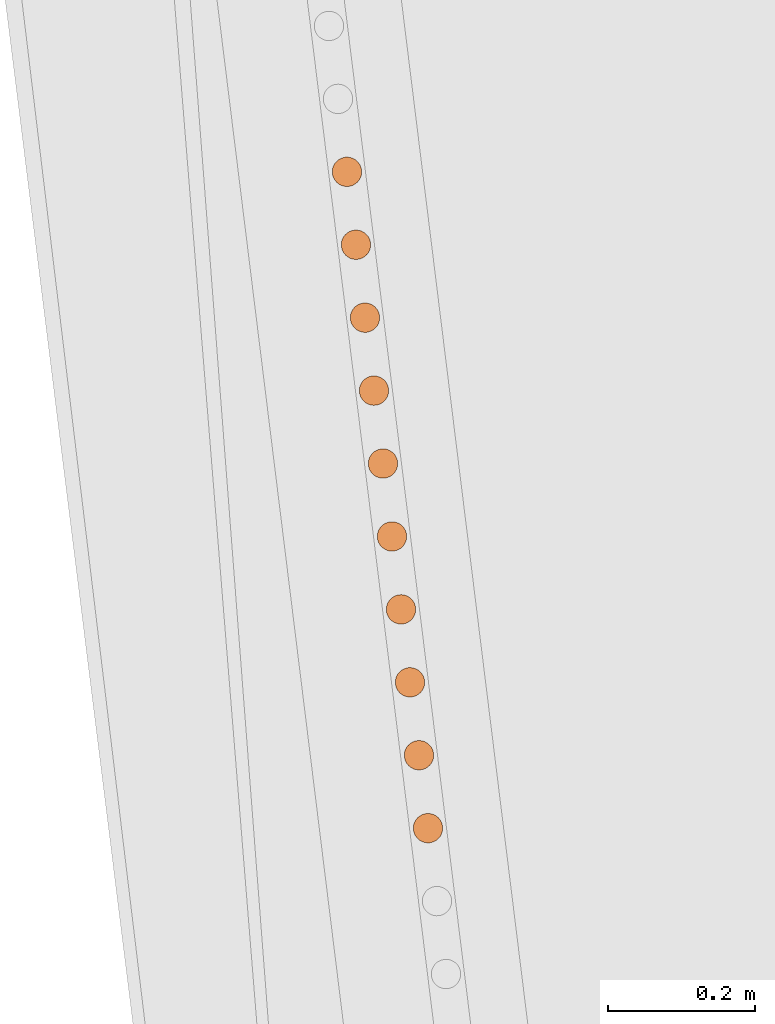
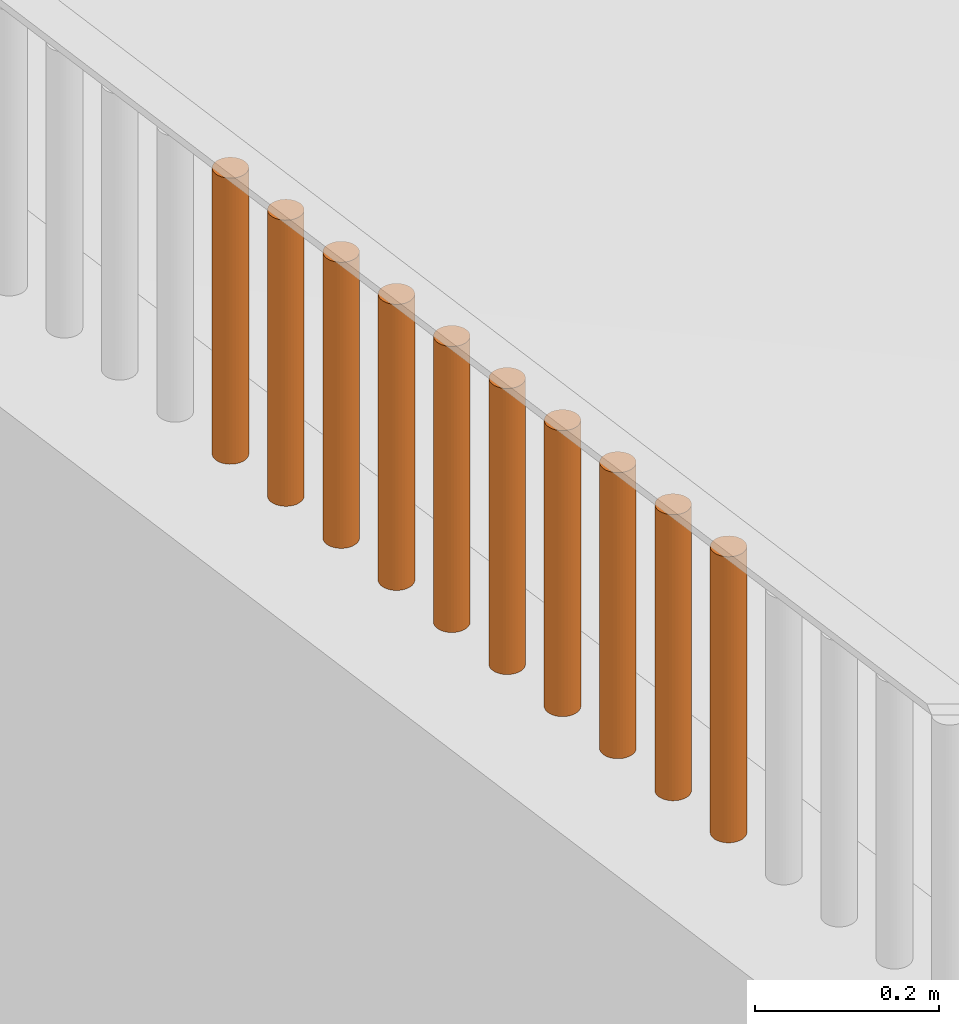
# One storey, part 59 of 1809: 10 proxies, 1 element without a shape of its own.
"""IFC2X3 building model written with IfcOpenShell, lengths in millimetres."""

from ifc_helpers import new_model, entity, si_unit, converted_unit, derived_unit, money_unit, direction, frame, origin_with_axes, place, context, subcontext, project, spatial, faceted_brep, source, transform, mapped, material, type_object, element, aggregate, save


model = new_model("IFC2X3")

# Units and contexts
model_context = context("Model", 3, precision=0.01, world=origin_with_axes(), true_north=direction((0.0, 1.0)))
body_context = subcontext(model_context, "Body", "Model", "MODEL_VIEW")
ifc_project = project(units=[si_unit("LENGTHUNIT", "METRE", prefix="MILLI"), si_unit("AREAUNIT", "SQUARE_METRE"), si_unit("VOLUMEUNIT", "CUBIC_METRE"), converted_unit("PLANEANGLEUNIT", "DEGREE", entity("IfcPlaneAngleMeasure", 0.0174532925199), si_unit("PLANEANGLEUNIT", "RADIAN"), dimensions=[0, 0, 0, 0, 0, 0, 0]), si_unit("SOLIDANGLEUNIT", "STERADIAN"), money_unit("EUR"), converted_unit("TIMEUNIT", "Year", entity("IfcTimeMeasure", 31556926.0), si_unit("TIMEUNIT", "SECOND"), dimensions=[0, 0, 1, 0, 0, 0, 0]), si_unit("MASSUNIT", "GRAM", prefix="KILO"), si_unit("THERMODYNAMICTEMPERATUREUNIT", "DEGREE_CELSIUS"), si_unit("LUMINOUSINTENSITYUNIT", "LUMEN"), si_unit("ENERGYUNIT", "JOULE", prefix="MEGA"), derived_unit("THERMALCONDUCTANCEUNIT", [(si_unit("POWERUNIT", "WATT"), 1), (si_unit("LENGTHUNIT", "METRE"), -1), (si_unit("THERMODYNAMICTEMPERATUREUNIT", "KELVIN"), -1)]), derived_unit("SPECIFICHEATCAPACITYUNIT", [(si_unit("ENERGYUNIT", "JOULE"), 1), (si_unit("MASSUNIT", "GRAM", prefix="KILO"), -1), (si_unit("THERMODYNAMICTEMPERATUREUNIT", "KELVIN"), -1)]), derived_unit("MASSDENSITYUNIT", [(si_unit("MASSUNIT", "GRAM", prefix="KILO"), 1), (si_unit("VOLUMEUNIT", "CUBIC_METRE"), -1)])], contexts=[model_context])

# Site, building, storey
site_placement = place(None, origin_with_axes())
site = spatial("IfcSite", under=ifc_project, at=site_placement, Name="Politse- ja Piirivalveameti ning Päästeameti ühishoone", CompositionType="ELEMENT")
building_placement = place(site_placement, origin_with_axes())
building = spatial("IfcBuilding", under=site, at=building_placement, Name="Politse- ja Piirivalveameti ning Päästeameti ühishoone", CompositionType="ELEMENT")
storey_placement = place(building_placement, origin_with_axes())
storey = spatial("IfcBuildingStorey", under=building, at=storey_placement, Name="Esimene korrus", CompositionType="ELEMENT", Elevation=0.0)

# Proxies
building_element_proxy_type_1 = type_object("IfcBuildingElementProxyType", Name="Railing Type", PredefinedType="NOTDEFINED")
proxy_1_placement = place(storey_placement, frame((-18956.5522504, -53688.4757966, 2100.0), z_axis=(0.0, 0.0, 1.0), x_axis=(1.0, 0.0, 0.0)))
proxy_1 = element("IfcBuildingElementProxy", 1, at=proxy_1_placement, inside=storey, type_object=building_element_proxy_type_1, Name="PIIRDEAED")
ifc_material = material(Name="ET-06_Teras - Konstruktsioon")
building_element_proxy_type_2 = type_object("IfcBuildingElementProxyType", Name="IfcBuildingElementProxy", PredefinedType="NOTDEFINED")
shared_shape_1 = source(origin_with_axes(), body_context, "Body", "Brep", [
    faceted_brep([(0.0, -20.0, 0.0), (3.47296355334, -19.6961550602, 0.0), (3.47296355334, -19.6961550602, 380.000012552), (0.0, -20.0, 380.000012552), (-3.47296355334, -19.6961550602, 0.0), (-6.84040286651, -18.7938524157, 0.0), (-10.0, -17.3205080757, 0.0), (-12.8557521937, -15.3208888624, 0.0), (-15.3208888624, -12.8557521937, 0.0), (-17.3205080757, -10.0, 0.0), (-18.7938524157, -6.84040286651, 0.0), (-19.6961550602, -3.47296355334, 0.0), (-20.0, 0.0, 0.0), (-19.6961550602, 3.47296355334, 0.0), (-18.7938524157, 6.84040286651, 0.0), (-17.3205080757, 10.0, 0.0), (-15.3208888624, 12.8557521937, 0.0), (-12.8557521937, 15.3208888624, 0.0), (-10.0, 17.3205080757, 0.0), (-6.84040286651, 18.7938524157, 0.0), (-3.47296355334, 19.6961550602, 0.0), (0.0, 20.0, 0.0), (3.47296355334, 19.6961550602, 0.0), (6.84040286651, 18.7938524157, 0.0), (10.0, 17.3205080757, 0.0), (12.8557521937, 15.3208888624, 0.0), (15.3208888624, 12.8557521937, 0.0), (17.3205080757, 10.0, 0.0), (18.7938524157, 6.84040286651, 0.0), (19.6961550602, 3.47296355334, 0.0), (20.0, 0.0, 0.0), (19.6961550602, -3.47296355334, 0.0), (18.7938524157, -6.84040286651, 0.0), (17.3205080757, -10.0, 0.0), (15.3208888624, -12.8557521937, 0.0), (12.8557521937, -15.3208888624, 0.0), (10.0, -17.3205080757, 0.0), (6.84040286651, -18.7938524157, 0.0), (6.84040286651, -18.7938524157, 380.000012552), (10.0, -17.3205080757, 380.000012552), (12.8557521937, -15.3208888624, 380.000012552), (15.3208888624, -12.8557521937, 380.000012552), (17.3205080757, -10.0, 380.000012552), (18.7938524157, -6.84040286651, 380.000012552), (19.6961550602, -3.47296355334, 380.000012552), (20.0, 0.0, 380.000012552), (19.6961550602, 3.47296355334, 380.000012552), (18.7938524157, 6.84040286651, 380.000012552), (17.3205080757, 10.0, 380.000012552), (15.3208888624, 12.8557521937, 380.000012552), (12.8557521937, 15.3208888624, 380.000012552), (10.0, 17.3205080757, 380.000012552), (6.84040286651, 18.7938524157, 380.000012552), (3.47296355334, 19.6961550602, 380.000012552), (0.0, 20.0, 380.000012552), (-3.47296355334, 19.6961550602, 380.000012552), (-6.84040286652, 18.7938524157, 380.000012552), (-10.0, 17.3205080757, 380.000012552), (-12.8557521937, 15.3208888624, 380.000012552), (-15.3208888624, 12.8557521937, 380.000012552), (-17.3205080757, 10.0, 380.000012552), (-18.7938524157, 6.84040286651, 380.000012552), (-19.6961550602, 3.47296355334, 380.000012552), (-20.0, 0.0, 380.000012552), (-19.6961550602, -3.47296355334, 380.000012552), (-18.7938524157, -6.84040286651, 380.000012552), (-17.3205080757, -10.0, 380.000012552), (-15.3208888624, -12.8557521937, 380.000012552), (-12.8557521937, -15.3208888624, 380.000012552), (-10.0, -17.3205080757, 380.000012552), (-6.84040286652, -18.7938524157, 380.000012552), (-3.47296355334, -19.6961550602, 380.000012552)], [[[0, 1, 2, 3]], [[0, 4, 5, 6, 7, 8, 9, 10, 11, 12, 13, 14, 15, 16, 17, 18, 19, 20, 21, 22, 23, 24, 25, 26, 27, 28, 29, 30, 31, 32, 33, 34, 35, 36, 37, 1]], [[1, 37, 38, 2]], [[3, 2, 38, 39, 40, 41, 42, 43, 44, 45, 46, 47, 48, 49, 50, 51, 52, 53, 54, 55, 56, 57, 58, 59, 60, 61, 62, 63, 64, 65, 66, 67, 68, 69, 70, 71]], [[4, 0, 3, 71]], [[5, 4, 71, 70]], [[6, 5, 70, 69]], [[7, 6, 69, 68]], [[8, 7, 68, 67]], [[9, 8, 67, 66]], [[10, 9, 66, 65]], [[11, 10, 65, 64]], [[12, 11, 64, 63]], [[13, 12, 63, 62]], [[14, 13, 62, 61]], [[15, 14, 61, 60]], [[16, 15, 60, 59]], [[17, 16, 59, 58]], [[18, 17, 58, 57]], [[19, 18, 57, 56]], [[20, 19, 56, 55]], [[21, 20, 55, 54]], [[22, 21, 54, 53]], [[23, 22, 53, 52]], [[24, 23, 52, 51]], [[25, 24, 51, 50]], [[26, 25, 50, 49]], [[27, 26, 49, 48]], [[28, 27, 48, 47]], [[29, 28, 47, 46]], [[30, 29, 46, 45]], [[31, 30, 45, 44]], [[32, 31, 44, 43]], [[33, 32, 43, 42]], [[34, 33, 42, 41]], [[35, 34, 41, 40]], [[36, 35, 40, 39]], [[37, 36, 39, 38]]]),
])
proxy_2_placement = place(proxy_1_placement, frame((-582.931039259, 3888.59590215, -1.25517001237e-05), z_axis=(0.0, 0.0, 1.0), x_axis=(1.0, 0.0, 0.0)))
proxy_2 = element("IfcBuildingElementProxy", 2, at=proxy_2_placement, type_object=building_element_proxy_type_2, material=ifc_material, Name="BALUSTER - 001", context=body_context, shape_type="MappedRepresentation", body=[
    mapped(shared_shape_1, transform((0.0, 0.0, 0.0), x_axis=(0.992468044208, 0.122503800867, 0.0), y_axis=(-0.122503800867, 0.992468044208, 0.0), z_axis=(0.0, 0.0, 1.0))),
])
proxy_3_placement = place(proxy_1_placement, frame((-656.417268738, 4483.9466907, -1.25517001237e-05), z_axis=(0.0, 0.0, 1.0), x_axis=(1.0, 0.0, 0.0)))
proxy_3 = element("IfcBuildingElementProxy", 3, at=proxy_3_placement, type_object=building_element_proxy_type_2, material=ifc_material, Name="BALUSTER - 001", context=body_context, shape_type="MappedRepresentation", body=[
    mapped(shared_shape_1, transform((0.0, 0.0, 0.0), x_axis=(0.992468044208, 0.122503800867, 0.0), y_axis=(-0.122503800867, 0.992468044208, 0.0), z_axis=(0.0, 0.0, 1.0))),
])
shared_shape_2 = source(origin_with_axes(), body_context, "Body", "Brep", [
    faceted_brep([(0.0, -20.0, 0.0), (3.47296355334, -19.6961550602, 0.0), (3.47296355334, -19.6961550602, 380.000012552), (0.0, -20.0, 380.000012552), (-3.47296355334, -19.6961550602, 0.0), (-6.84040286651, -18.7938524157, 0.0), (-10.0, -17.3205080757, 0.0), (-12.8557521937, -15.3208888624, 0.0), (-15.3208888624, -12.8557521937, 0.0), (-17.3205080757, -10.0, 0.0), (-18.7938524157, -6.84040286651, 0.0), (-19.6961550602, -3.47296355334, 0.0), (-20.0, 0.0, 0.0), (-19.6961550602, 3.47296355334, 0.0), (-18.7938524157, 6.84040286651, 0.0), (-17.3205080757, 10.0, 0.0), (-15.3208888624, 12.8557521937, 0.0), (-12.8557521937, 15.3208888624, 0.0), (-10.0, 17.3205080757, 0.0), (-6.84040286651, 18.7938524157, 0.0), (-3.47296355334, 19.6961550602, 0.0), (0.0, 20.0, 0.0), (3.47296355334, 19.6961550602, 0.0), (6.84040286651, 18.7938524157, 0.0), (10.0, 17.3205080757, 0.0), (12.8557521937, 15.3208888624, 0.0), (15.3208888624, 12.8557521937, 0.0), (17.3205080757, 10.0, 0.0), (18.7938524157, 6.84040286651, 0.0), (19.6961550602, 3.47296355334, 0.0), (20.0, 0.0, 0.0), (19.6961550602, -3.47296355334, 0.0), (18.7938524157, -6.84040286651, 0.0), (17.3205080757, -10.0, 0.0), (15.3208888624, -12.8557521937, 0.0), (12.8557521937, -15.3208888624, 0.0), (10.0, -17.3205080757, 0.0), (6.84040286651, -18.7938524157, 0.0), (6.84040286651, -18.7938524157, 380.000012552), (10.0, -17.3205080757, 380.000012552), (12.8557521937, -15.3208888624, 380.000012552), (15.3208888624, -12.8557521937, 380.000012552), (17.3205080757, -10.0, 380.000012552), (18.7938524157, -6.84040286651, 380.000012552), (19.6961550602, -3.47296355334, 380.000012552), (20.0, 0.0, 380.000012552), (19.6961550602, 3.47296355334, 380.000012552), (18.7938524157, 6.84040286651, 380.000012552), (17.3205080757, 10.0, 380.000012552), (15.3208888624, 12.8557521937, 380.000012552), (12.8557521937, 15.3208888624, 380.000012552), (10.0, 17.3205080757, 380.000012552), (6.84040286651, 18.7938524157, 380.000012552), (3.47296355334, 19.6961550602, 380.000012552), (0.0, 20.0, 380.000012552), (-3.47296355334, 19.6961550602, 380.000012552), (-6.84040286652, 18.7938524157, 380.000012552), (-10.0, 17.3205080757, 380.000012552), (-12.8557521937, 15.3208888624, 380.000012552), (-15.3208888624, 12.8557521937, 380.000012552), (-17.3205080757, 10.0, 380.000012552), (-18.7938524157, 6.84040286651, 380.000012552), (-19.6961550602, 3.47296355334, 380.000012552), (-20.0, 0.0, 380.000012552), (-19.6961550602, -3.47296355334, 380.000012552), (-18.7938524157, -6.84040286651, 380.000012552), (-17.3205080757, -10.0, 380.000012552), (-15.3208888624, -12.8557521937, 380.000012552), (-12.8557521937, -15.3208888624, 380.000012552), (-10.0, -17.3205080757, 380.000012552), (-6.84040286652, -18.7938524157, 380.000012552), (-3.47296355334, -19.6961550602, 380.000012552)], [[[0, 1, 2, 3]], [[0, 4, 5, 6, 7, 8, 9, 10, 11, 12, 13, 14, 15, 16, 17, 18, 19, 20, 21, 22, 23, 24, 25, 26, 27, 28, 29, 30, 31, 32, 33, 34, 35, 36, 37, 1]], [[1, 37, 38, 2]], [[3, 2, 38, 39, 40, 41, 42, 43, 44, 45, 46, 47, 48, 49, 50, 51, 52, 53, 54, 55, 56, 57, 58, 59, 60, 61, 62, 63, 64, 65, 66, 67, 68, 69, 70, 71]], [[4, 0, 3, 71]], [[5, 4, 71, 70]], [[6, 5, 70, 69]], [[7, 6, 69, 68]], [[8, 7, 68, 67]], [[9, 8, 67, 66]], [[10, 9, 66, 65]], [[11, 10, 65, 64]], [[12, 11, 64, 63]], [[13, 12, 63, 62]], [[14, 13, 62, 61]], [[15, 14, 61, 60]], [[16, 15, 60, 59]], [[17, 16, 59, 58]], [[18, 17, 58, 57]], [[19, 18, 57, 56]], [[20, 19, 56, 55]], [[21, 20, 55, 54]], [[22, 21, 54, 53]], [[23, 22, 53, 52]], [[24, 23, 52, 51]], [[25, 24, 51, 50]], [[26, 25, 50, 49]], [[27, 26, 49, 48]], [[28, 27, 48, 47]], [[29, 28, 47, 46]], [[30, 29, 46, 45]], [[31, 30, 45, 44]], [[32, 31, 44, 43]], [[33, 32, 43, 42]], [[34, 33, 42, 41]], [[35, 34, 41, 40]], [[36, 35, 40, 39]], [[37, 36, 39, 38]]]),
])
proxy_4_placement = place(proxy_1_placement, frame((-570.683334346, 3789.37077073, -1.25517001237e-05), z_axis=(0.0, 0.0, 1.0), x_axis=(1.0, 0.0, 0.0)))
proxy_4 = element("IfcBuildingElementProxy", 4, at=proxy_4_placement, type_object=building_element_proxy_type_2, material=ifc_material, Name="BALUSTER - 001", context=body_context, shape_type="MappedRepresentation", body=[
    mapped(shared_shape_2, transform((0.0, 0.0, 0.0), x_axis=(0.992468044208, 0.122503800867, 0.0), y_axis=(-0.122503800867, 0.992468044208, 0.0), z_axis=(0.0, 0.0, 1.0))),
])
proxy_5_placement = place(proxy_1_placement, frame((-619.674153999, 4186.27129643, -1.25517001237e-05), z_axis=(0.0, 0.0, 1.0), x_axis=(1.0, 0.0, 0.0)))
proxy_5 = element("IfcBuildingElementProxy", 5, at=proxy_5_placement, type_object=building_element_proxy_type_2, material=ifc_material, Name="BALUSTER - 001", context=body_context, shape_type="MappedRepresentation", body=[
    mapped(shared_shape_2, transform((0.0, 0.0, 0.0), x_axis=(0.992468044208, 0.122503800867, 0.0), y_axis=(-0.122503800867, 0.992468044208, 0.0), z_axis=(0.0, 0.0, 1.0))),
])
proxy_6_placement = place(proxy_1_placement, frame((-631.921858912, 4285.49642785, -1.25517001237e-05), z_axis=(0.0, 0.0, 1.0), x_axis=(1.0, 0.0, 0.0)))
proxy_6 = element("IfcBuildingElementProxy", 6, at=proxy_6_placement, type_object=building_element_proxy_type_2, material=ifc_material, Name="BALUSTER - 001", context=body_context, shape_type="MappedRepresentation", body=[
    mapped(shared_shape_2, transform((0.0, 0.0, 0.0), x_axis=(0.992468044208, 0.122503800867, 0.0), y_axis=(-0.122503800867, 0.992468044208, 0.0), z_axis=(0.0, 0.0, 1.0))),
])
proxy_7_placement = place(proxy_1_placement, frame((-668.664973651, 4583.17182213, -1.25517001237e-05), z_axis=(0.0, 0.0, 1.0), x_axis=(1.0, 0.0, 0.0)))
proxy_7 = element("IfcBuildingElementProxy", 7, at=proxy_7_placement, type_object=building_element_proxy_type_2, material=ifc_material, Name="BALUSTER - 001", context=body_context, shape_type="MappedRepresentation", body=[
    mapped(shared_shape_2, transform((0.0, 0.0, 0.0), x_axis=(0.992468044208, 0.122503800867, 0.0), y_axis=(-0.122503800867, 0.992468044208, 0.0), z_axis=(0.0, 0.0, 1.0))),
])
shared_shape_3 = source(origin_with_axes(), body_context, "Body", "Brep", [
    faceted_brep([(0.0, -20.0, 0.0), (3.47296355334, -19.6961550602, 0.0), (3.47296355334, -19.6961550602, 380.000012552), (0.0, -20.0, 380.000012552), (-3.47296355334, -19.6961550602, 0.0), (-6.84040286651, -18.7938524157, 0.0), (-10.0, -17.3205080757, 0.0), (-12.8557521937, -15.3208888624, 0.0), (-15.3208888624, -12.8557521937, 0.0), (-17.3205080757, -10.0, 0.0), (-18.7938524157, -6.84040286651, 0.0), (-19.6961550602, -3.47296355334, 0.0), (-20.0, 0.0, 0.0), (-19.6961550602, 3.47296355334, 0.0), (-18.7938524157, 6.84040286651, 0.0), (-17.3205080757, 10.0, 0.0), (-15.3208888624, 12.8557521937, 0.0), (-12.8557521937, 15.3208888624, 0.0), (-10.0, 17.3205080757, 0.0), (-6.84040286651, 18.7938524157, 0.0), (-3.47296355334, 19.6961550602, 0.0), (0.0, 20.0, 0.0), (3.47296355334, 19.6961550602, 0.0), (6.84040286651, 18.7938524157, 0.0), (10.0, 17.3205080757, 0.0), (12.8557521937, 15.3208888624, 0.0), (15.3208888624, 12.8557521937, 0.0), (17.3205080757, 10.0, 0.0), (18.7938524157, 6.84040286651, 0.0), (19.6961550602, 3.47296355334, 0.0), (20.0, 0.0, 0.0), (19.6961550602, -3.47296355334, 0.0), (18.7938524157, -6.84040286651, 0.0), (17.3205080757, -10.0, 0.0), (15.3208888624, -12.8557521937, 0.0), (12.8557521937, -15.3208888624, 0.0), (10.0, -17.3205080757, 0.0), (6.84040286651, -18.7938524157, 0.0), (6.84040286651, -18.7938524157, 380.000012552), (10.0, -17.3205080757, 380.000012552), (12.8557521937, -15.3208888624, 380.000012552), (15.3208888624, -12.8557521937, 380.000012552), (17.3205080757, -10.0, 380.000012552), (18.7938524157, -6.84040286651, 380.000012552), (19.6961550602, -3.47296355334, 380.000012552), (20.0, 0.0, 380.000012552), (19.6961550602, 3.47296355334, 380.000012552), (18.7938524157, 6.84040286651, 380.000012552), (17.3205080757, 10.0, 380.000012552), (15.3208888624, 12.8557521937, 380.000012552), (12.8557521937, 15.3208888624, 380.000012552), (10.0, 17.3205080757, 380.000012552), (6.84040286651, 18.7938524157, 380.000012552), (3.47296355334, 19.6961550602, 380.000012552), (0.0, 20.0, 380.000012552), (-3.47296355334, 19.6961550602, 380.000012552), (-6.84040286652, 18.7938524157, 380.000012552), (-10.0, 17.3205080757, 380.000012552), (-12.8557521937, 15.3208888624, 380.000012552), (-15.3208888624, 12.8557521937, 380.000012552), (-17.3205080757, 10.0, 380.000012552), (-18.7938524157, 6.84040286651, 380.000012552), (-19.6961550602, 3.47296355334, 380.000012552), (-20.0, 0.0, 380.000012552), (-19.6961550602, -3.47296355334, 380.000012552), (-18.7938524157, -6.84040286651, 380.000012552), (-17.3205080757, -10.0, 380.000012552), (-15.3208888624, -12.8557521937, 380.000012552), (-12.8557521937, -15.3208888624, 380.000012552), (-10.0, -17.3205080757, 380.000012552), (-6.84040286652, -18.7938524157, 380.000012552), (-3.47296355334, -19.6961550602, 380.000012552)], [[[0, 1, 2, 3]], [[0, 4, 5, 6, 7, 8, 9, 10, 11, 12, 13, 14, 15, 16, 17, 18, 19, 20, 21, 22, 23, 24, 25, 26, 27, 28, 29, 30, 31, 32, 33, 34, 35, 36, 37, 1]], [[1, 37, 38, 2]], [[3, 2, 38, 39, 40, 41, 42, 43, 44, 45, 46, 47, 48, 49, 50, 51, 52, 53, 54, 55, 56, 57, 58, 59, 60, 61, 62, 63, 64, 65, 66, 67, 68, 69, 70, 71]], [[4, 0, 3, 71]], [[5, 4, 71, 70]], [[6, 5, 70, 69]], [[7, 6, 69, 68]], [[8, 7, 68, 67]], [[9, 8, 67, 66]], [[10, 9, 66, 65]], [[11, 10, 65, 64]], [[12, 11, 64, 63]], [[13, 12, 63, 62]], [[14, 13, 62, 61]], [[15, 14, 61, 60]], [[16, 15, 60, 59]], [[17, 16, 59, 58]], [[18, 17, 58, 57]], [[19, 18, 57, 56]], [[20, 19, 56, 55]], [[21, 20, 55, 54]], [[22, 21, 54, 53]], [[23, 22, 53, 52]], [[24, 23, 52, 51]], [[25, 24, 51, 50]], [[26, 25, 50, 49]], [[27, 26, 49, 48]], [[28, 27, 48, 47]], [[29, 28, 47, 46]], [[30, 29, 46, 45]], [[31, 30, 45, 44]], [[32, 31, 44, 43]], [[33, 32, 43, 42]], [[34, 33, 42, 41]], [[35, 34, 41, 40]], [[36, 35, 40, 39]], [[37, 36, 39, 38]]]),
])
proxy_8_placement = place(proxy_1_placement, frame((-595.178744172, 3987.82103358, -1.25517001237e-05), z_axis=(0.0, 0.0, 1.0), x_axis=(1.0, 0.0, 0.0)))
proxy_8 = element("IfcBuildingElementProxy", 8, at=proxy_8_placement, type_object=building_element_proxy_type_2, material=ifc_material, Name="BALUSTER - 001", context=body_context, shape_type="MappedRepresentation", body=[
    mapped(shared_shape_3, transform((0.0, 0.0, 0.0), x_axis=(0.992468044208, 0.122503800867, 0.0), y_axis=(-0.122503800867, 0.992468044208, 0.0), z_axis=(0.0, 0.0, 1.0))),
])
shared_shape_4 = source(origin_with_axes(), body_context, "Body", "Brep", [
    faceted_brep([(0.0, -20.0, 0.0), (3.47296355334, -19.6961550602, 0.0), (3.47296355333, -19.6961550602, 380.000012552), (0.0, -20.0, 380.000012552), (-3.47296355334, -19.6961550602, 0.0), (-6.84040286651, -18.7938524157, 0.0), (-10.0, -17.3205080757, 0.0), (-12.8557521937, -15.3208888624, 0.0), (-15.3208888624, -12.8557521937, 0.0), (-17.3205080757, -10.0, 0.0), (-18.7938524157, -6.84040286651, 0.0), (-19.6961550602, -3.47296355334, 0.0), (-20.0, 0.0, 0.0), (-19.6961550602, 3.47296355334, 0.0), (-18.7938524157, 6.84040286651, 0.0), (-17.3205080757, 10.0, 0.0), (-15.3208888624, 12.8557521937, 0.0), (-12.8557521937, 15.3208888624, 0.0), (-10.0, 17.3205080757, 0.0), (-6.84040286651, 18.7938524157, 0.0), (-3.47296355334, 19.6961550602, 0.0), (0.0, 20.0, 0.0), (3.47296355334, 19.6961550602, 0.0), (6.84040286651, 18.7938524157, 0.0), (10.0, 17.3205080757, 0.0), (12.8557521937, 15.3208888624, 0.0), (15.3208888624, 12.8557521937, 0.0), (17.3205080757, 10.0, 0.0), (18.7938524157, 6.84040286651, 0.0), (19.6961550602, 3.47296355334, 0.0), (20.0, 0.0, 0.0), (19.6961550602, -3.47296355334, 0.0), (18.7938524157, -6.84040286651, 0.0), (17.3205080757, -10.0, 0.0), (15.3208888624, -12.8557521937, 0.0), (12.8557521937, -15.3208888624, 0.0), (10.0, -17.3205080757, 0.0), (6.84040286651, -18.7938524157, 0.0), (6.84040286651, -18.7938524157, 380.000012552), (9.99999999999, -17.3205080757, 380.000012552), (12.8557521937, -15.3208888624, 380.000012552), (15.3208888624, -12.8557521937, 380.000012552), (17.3205080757, -10.0, 380.000012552), (18.7938524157, -6.84040286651, 380.000012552), (19.6961550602, -3.47296355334, 380.000012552), (20.0, 0.0, 380.000012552), (19.6961550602, 3.47296355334, 380.000012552), (18.7938524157, 6.84040286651, 380.000012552), (17.3205080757, 10.0, 380.000012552), (15.3208888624, 12.8557521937, 380.000012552), (12.8557521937, 15.3208888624, 380.000012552), (9.99999999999, 17.3205080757, 380.000012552), (6.84040286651, 18.7938524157, 380.000012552), (3.47296355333, 19.6961550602, 380.000012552), (0.0, 20.0, 380.000012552), (-3.47296355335, 19.6961550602, 380.000012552), (-6.84040286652, 18.7938524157, 380.000012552), (-10.0, 17.3205080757, 380.000012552), (-12.8557521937, 15.3208888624, 380.000012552), (-15.3208888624, 12.8557521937, 380.000012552), (-17.3205080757, 10.0, 380.000012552), (-18.7938524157, 6.84040286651, 380.000012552), (-19.6961550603, 3.47296355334, 380.000012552), (-20.0, 0.0, 380.000012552), (-19.6961550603, -3.47296355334, 380.000012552), (-18.7938524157, -6.84040286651, 380.000012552), (-17.3205080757, -10.0, 380.000012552), (-15.3208888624, -12.8557521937, 380.000012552), (-12.8557521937, -15.3208888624, 380.000012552), (-10.0, -17.3205080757, 380.000012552), (-6.84040286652, -18.7938524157, 380.000012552), (-3.47296355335, -19.6961550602, 380.000012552)], [[[0, 1, 2, 3]], [[0, 4, 5, 6, 7, 8, 9, 10, 11, 12, 13, 14, 15, 16, 17, 18, 19, 20, 21, 22, 23, 24, 25, 26, 27, 28, 29, 30, 31, 32, 33, 34, 35, 36, 37, 1]], [[1, 37, 38, 2]], [[3, 2, 38, 39, 40, 41, 42, 43, 44, 45, 46, 47, 48, 49, 50, 51, 52, 53, 54, 55, 56, 57, 58, 59, 60, 61, 62, 63, 64, 65, 66, 67, 68, 69, 70, 71]], [[4, 0, 3, 71]], [[5, 4, 71, 70]], [[6, 5, 70, 69]], [[7, 6, 69, 68]], [[8, 7, 68, 67]], [[9, 8, 67, 66]], [[10, 9, 66, 65]], [[11, 10, 65, 64]], [[12, 11, 64, 63]], [[13, 12, 63, 62]], [[14, 13, 62, 61]], [[15, 14, 61, 60]], [[16, 15, 60, 59]], [[17, 16, 59, 58]], [[18, 17, 58, 57]], [[19, 18, 57, 56]], [[20, 19, 56, 55]], [[21, 20, 55, 54]], [[22, 21, 54, 53]], [[23, 22, 53, 52]], [[24, 23, 52, 51]], [[25, 24, 51, 50]], [[26, 25, 50, 49]], [[27, 26, 49, 48]], [[28, 27, 48, 47]], [[29, 28, 47, 46]], [[30, 29, 46, 45]], [[31, 30, 45, 44]], [[32, 31, 44, 43]], [[33, 32, 43, 42]], [[34, 33, 42, 41]], [[35, 34, 41, 40]], [[36, 35, 40, 39]], [[37, 36, 39, 38]]]),
])
proxy_9_placement = place(proxy_1_placement, frame((-644.169563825, 4384.72155928, -1.25517001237e-05), z_axis=(0.0, 0.0, 1.0), x_axis=(1.0, 0.0, 0.0)))
proxy_9 = element("IfcBuildingElementProxy", 9, at=proxy_9_placement, type_object=building_element_proxy_type_2, material=ifc_material, Name="BALUSTER - 001", context=body_context, shape_type="MappedRepresentation", body=[
    mapped(shared_shape_4, transform((0.0, 0.0, 0.0), x_axis=(0.992468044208, 0.122503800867, 0.0), y_axis=(-0.122503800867, 0.992468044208, 0.0), z_axis=(0.0, 0.0, 1.0))),
])
shared_shape_5 = source(origin_with_axes(), body_context, "Body", "Brep", [
    faceted_brep([(0.0, -20.0, 0.0), (3.47296355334, -19.6961550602, 0.0), (3.47296355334, -19.6961550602, 380.000012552), (0.0, -20.0, 380.000012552), (-3.47296355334, -19.6961550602, 0.0), (-6.84040286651, -18.7938524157, 0.0), (-10.0, -17.3205080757, 0.0), (-12.8557521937, -15.3208888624, 0.0), (-15.3208888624, -12.8557521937, 0.0), (-17.3205080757, -10.0, 0.0), (-18.7938524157, -6.84040286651, 0.0), (-19.6961550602, -3.47296355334, 0.0), (-20.0, 0.0, 0.0), (-19.6961550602, 3.47296355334, 0.0), (-18.7938524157, 6.84040286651, 0.0), (-17.3205080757, 10.0, 0.0), (-15.3208888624, 12.8557521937, 0.0), (-12.8557521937, 15.3208888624, 0.0), (-10.0, 17.3205080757, 0.0), (-6.84040286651, 18.7938524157, 0.0), (-3.47296355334, 19.6961550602, 0.0), (0.0, 20.0, 0.0), (3.47296355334, 19.6961550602, 0.0), (6.84040286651, 18.7938524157, 0.0), (10.0, 17.3205080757, 0.0), (12.8557521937, 15.3208888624, 0.0), (15.3208888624, 12.8557521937, 0.0), (17.3205080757, 10.0, 0.0), (18.7938524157, 6.84040286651, 0.0), (19.6961550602, 3.47296355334, 0.0), (20.0, 0.0, 0.0), (19.6961550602, -3.47296355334, 0.0), (18.7938524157, -6.84040286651, 0.0), (17.3205080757, -10.0, 0.0), (15.3208888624, -12.8557521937, 0.0), (12.8557521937, -15.3208888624, 0.0), (10.0, -17.3205080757, 0.0), (6.84040286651, -18.7938524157, 0.0), (6.84040286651, -18.7938524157, 380.000012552), (10.0, -17.3205080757, 380.000012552), (12.8557521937, -15.3208888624, 380.000012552), (15.3208888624, -12.8557521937, 380.000012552), (17.3205080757, -10.0, 380.000012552), (18.7938524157, -6.84040286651, 380.000012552), (19.6961550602, -3.47296355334, 380.000012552), (20.0, 0.0, 380.000012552), (19.6961550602, 3.47296355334, 380.000012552), (18.7938524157, 6.84040286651, 380.000012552), (17.3205080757, 10.0, 380.000012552), (15.3208888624, 12.8557521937, 380.000012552), (12.8557521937, 15.3208888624, 380.000012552), (10.0, 17.3205080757, 380.000012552), (6.84040286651, 18.7938524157, 380.000012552), (3.47296355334, 19.6961550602, 380.000012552), (0.0, 20.0, 380.000012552), (-3.47296355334, 19.6961550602, 380.000012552), (-6.84040286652, 18.7938524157, 380.000012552), (-10.0, 17.3205080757, 380.000012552), (-12.8557521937, 15.3208888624, 380.000012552), (-15.3208888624, 12.8557521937, 380.000012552), (-17.3205080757, 10.0, 380.000012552), (-18.7938524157, 6.84040286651, 380.000012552), (-19.6961550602, 3.47296355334, 380.000012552), (-20.0, 0.0, 380.000012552), (-19.6961550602, -3.47296355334, 380.000012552), (-18.7938524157, -6.84040286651, 380.000012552), (-17.3205080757, -10.0, 380.000012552), (-15.3208888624, -12.8557521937, 380.000012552), (-12.8557521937, -15.3208888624, 380.000012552), (-10.0, -17.3205080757, 380.000012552), (-6.84040286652, -18.7938524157, 380.000012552), (-3.47296355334, -19.6961550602, 380.000012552)], [[[0, 1, 2, 3]], [[0, 4, 5, 6, 7, 8, 9, 10, 11, 12, 13, 14, 15, 16, 17, 18, 19, 20, 21, 22, 23, 24, 25, 26, 27, 28, 29, 30, 31, 32, 33, 34, 35, 36, 37, 1]], [[1, 37, 38, 2]], [[3, 2, 38, 39, 40, 41, 42, 43, 44, 45, 46, 47, 48, 49, 50, 51, 52, 53, 54, 55, 56, 57, 58, 59, 60, 61, 62, 63, 64, 65, 66, 67, 68, 69, 70, 71]], [[4, 0, 3, 71]], [[5, 4, 71, 70]], [[6, 5, 70, 69]], [[7, 6, 69, 68]], [[8, 7, 68, 67]], [[9, 8, 67, 66]], [[10, 9, 66, 65]], [[11, 10, 65, 64]], [[12, 11, 64, 63]], [[13, 12, 63, 62]], [[14, 13, 62, 61]], [[15, 14, 61, 60]], [[16, 15, 60, 59]], [[17, 16, 59, 58]], [[18, 17, 58, 57]], [[19, 18, 57, 56]], [[20, 19, 56, 55]], [[21, 20, 55, 54]], [[22, 21, 54, 53]], [[23, 22, 53, 52]], [[24, 23, 52, 51]], [[25, 24, 51, 50]], [[26, 25, 50, 49]], [[27, 26, 49, 48]], [[28, 27, 48, 47]], [[29, 28, 47, 46]], [[30, 29, 46, 45]], [[31, 30, 45, 44]], [[32, 31, 44, 43]], [[33, 32, 43, 42]], [[34, 33, 42, 41]], [[35, 34, 41, 40]], [[36, 35, 40, 39]], [[37, 36, 39, 38]]]),
])
proxy_10_placement = place(proxy_1_placement, frame((-607.426449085, 4087.046165, -1.25517001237e-05), z_axis=(0.0, 0.0, 1.0), x_axis=(1.0, 0.0, 0.0)))
proxy_10 = element("IfcBuildingElementProxy", 10, at=proxy_10_placement, type_object=building_element_proxy_type_2, material=ifc_material, Name="BALUSTER - 001", context=body_context, shape_type="MappedRepresentation", body=[
    mapped(shared_shape_5, transform((0.0, 0.0, 0.0), x_axis=(0.992468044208, 0.122503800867, 0.0), y_axis=(-0.122503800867, 0.992468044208, 0.0), z_axis=(0.0, 0.0, 1.0))),
])
shared_shape_6 = source(origin_with_axes(), body_context, "Body", "Brep", [
    faceted_brep([(0.0, -20.0, 0.0), (3.47296355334, -19.6961550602, 0.0), (3.47296355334, -19.6961550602, 380.000012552), (0.0, -20.0, 380.000012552), (-3.47296355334, -19.6961550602, 0.0), (-6.84040286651, -18.7938524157, 0.0), (-10.0, -17.3205080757, 0.0), (-12.8557521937, -15.3208888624, 0.0), (-15.3208888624, -12.8557521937, 0.0), (-17.3205080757, -10.0, 0.0), (-18.7938524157, -6.84040286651, 0.0), (-19.6961550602, -3.47296355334, 0.0), (-20.0, 0.0, 0.0), (-19.6961550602, 3.47296355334, 0.0), (-18.7938524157, 6.84040286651, 0.0), (-17.3205080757, 10.0, 0.0), (-15.3208888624, 12.8557521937, 0.0), (-12.8557521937, 15.3208888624, 0.0), (-10.0, 17.3205080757, 0.0), (-6.84040286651, 18.7938524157, 0.0), (-3.47296355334, 19.6961550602, 0.0), (0.0, 20.0, 0.0), (3.47296355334, 19.6961550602, 0.0), (6.84040286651, 18.7938524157, 0.0), (10.0, 17.3205080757, 0.0), (12.8557521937, 15.3208888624, 0.0), (15.3208888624, 12.8557521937, 0.0), (17.3205080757, 10.0, 0.0), (18.7938524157, 6.84040286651, 0.0), (19.6961550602, 3.47296355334, 0.0), (20.0, 0.0, 0.0), (19.6961550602, -3.47296355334, 0.0), (18.7938524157, -6.84040286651, 0.0), (17.3205080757, -10.0, 0.0), (15.3208888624, -12.8557521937, 0.0), (12.8557521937, -15.3208888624, 0.0), (10.0, -17.3205080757, 0.0), (6.84040286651, -18.7938524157, 0.0), (6.84040286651, -18.7938524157, 380.000012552), (10.0, -17.3205080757, 380.000012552), (12.8557521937, -15.3208888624, 380.000012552), (15.3208888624, -12.8557521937, 380.000012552), (17.3205080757, -9.99999999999, 380.000012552), (18.7938524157, -6.84040286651, 380.000012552), (19.6961550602, -3.47296355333, 380.000012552), (20.0, 0.0, 380.000012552), (19.6961550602, 3.47296355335, 380.000012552), (18.7938524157, 6.84040286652, 380.000012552), (17.3205080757, 10.0, 380.000012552), (15.3208888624, 12.8557521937, 380.000012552), (12.8557521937, 15.3208888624, 380.000012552), (10.0, 17.3205080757, 380.000012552), (6.84040286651, 18.7938524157, 380.000012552), (3.47296355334, 19.6961550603, 380.000012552), (0.0, 20.0, 380.000012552), (-3.47296355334, 19.6961550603, 380.000012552), (-6.84040286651, 18.7938524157, 380.000012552), (-10.0, 17.3205080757, 380.000012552), (-12.8557521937, 15.3208888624, 380.000012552), (-15.3208888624, 12.8557521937, 380.000012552), (-17.3205080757, 10.0, 380.000012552), (-18.7938524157, 6.84040286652, 380.000012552), (-19.6961550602, 3.47296355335, 380.000012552), (-20.0, 0.0, 380.000012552), (-19.6961550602, -3.47296355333, 380.000012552), (-18.7938524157, -6.84040286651, 380.000012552), (-17.3205080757, -9.99999999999, 380.000012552), (-15.3208888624, -12.8557521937, 380.000012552), (-12.8557521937, -15.3208888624, 380.000012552), (-10.0, -17.3205080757, 380.000012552), (-6.84040286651, -18.7938524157, 380.000012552), (-3.47296355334, -19.6961550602, 380.000012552)], [[[0, 1, 2, 3]], [[0, 4, 5, 6, 7, 8, 9, 10, 11, 12, 13, 14, 15, 16, 17, 18, 19, 20, 21, 22, 23, 24, 25, 26, 27, 28, 29, 30, 31, 32, 33, 34, 35, 36, 37, 1]], [[1, 37, 38, 2]], [[3, 2, 38, 39, 40, 41, 42, 43, 44, 45, 46, 47, 48, 49, 50, 51, 52, 53, 54, 55, 56, 57, 58, 59, 60, 61, 62, 63, 64, 65, 66, 67, 68, 69, 70, 71]], [[4, 0, 3, 71]], [[5, 4, 71, 70]], [[6, 5, 70, 69]], [[7, 6, 69, 68]], [[8, 7, 68, 67]], [[9, 8, 67, 66]], [[10, 9, 66, 65]], [[11, 10, 65, 64]], [[12, 11, 64, 63]], [[13, 12, 63, 62]], [[14, 13, 62, 61]], [[15, 14, 61, 60]], [[16, 15, 60, 59]], [[17, 16, 59, 58]], [[18, 17, 58, 57]], [[19, 18, 57, 56]], [[20, 19, 56, 55]], [[21, 20, 55, 54]], [[22, 21, 54, 53]], [[23, 22, 53, 52]], [[24, 23, 52, 51]], [[25, 24, 51, 50]], [[26, 25, 50, 49]], [[27, 26, 49, 48]], [[28, 27, 48, 47]], [[29, 28, 47, 46]], [[30, 29, 46, 45]], [[31, 30, 45, 44]], [[32, 31, 44, 43]], [[33, 32, 43, 42]], [[34, 33, 42, 41]], [[35, 34, 41, 40]], [[36, 35, 40, 39]], [[37, 36, 39, 38]]]),
])
proxy_11_placement = place(proxy_1_placement, frame((-558.435629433, 3690.1456393, -1.25517001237e-05), z_axis=(0.0, 0.0, 1.0), x_axis=(1.0, 0.0, 0.0)))
proxy_11 = element("IfcBuildingElementProxy", 11, at=proxy_11_placement, type_object=building_element_proxy_type_2, material=ifc_material, Name="BALUSTER - 001", context=body_context, shape_type="MappedRepresentation", body=[
    mapped(shared_shape_6, transform((0.0, 0.0, 0.0), x_axis=(0.992468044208, 0.122503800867, 0.0), y_axis=(-0.122503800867, 0.992468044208, 0.0), z_axis=(0.0, 0.0, 1.0))),
])
aggregate(proxy_1, [proxy_11, proxy_4, proxy_2, proxy_8, proxy_10, proxy_5, proxy_6, proxy_9, proxy_3, proxy_7])

save(model, "model.ifc")
